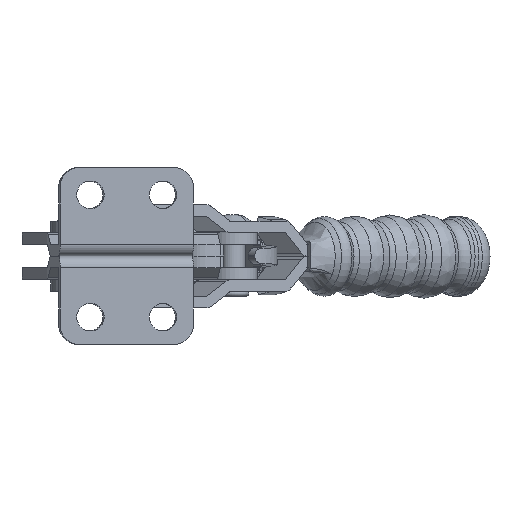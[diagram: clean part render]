
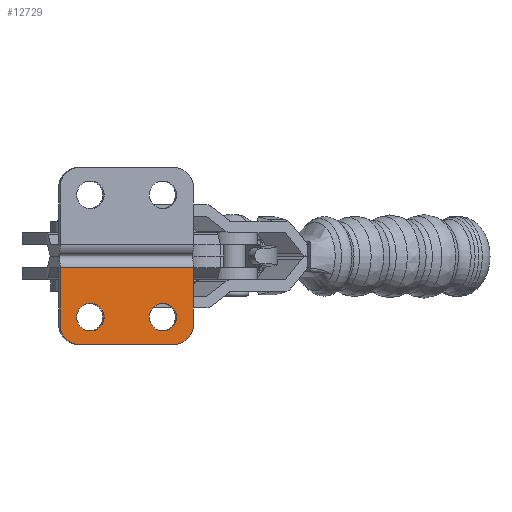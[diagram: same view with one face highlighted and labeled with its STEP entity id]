
A CAD part, front view. The second image highlights one B-rep face of the part: STEP entity #12729.
In plain terms, the highlighted planar face has unit normal (0.119, -0.993, 0) as drawn and (0, -1, 0) by its records, which use the part's own axes.
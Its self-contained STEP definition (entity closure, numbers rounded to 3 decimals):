
#872=FACE_BOUND('',#2001,.T.);
#873=FACE_BOUND('',#2002,.T.);
#958=PLANE('',#13715);
#1284=FACE_OUTER_BOUND('',#2000,.T.);
#2000=EDGE_LOOP('',(#8731,#8732,#8733,#8734,#8735,#8736));
#2001=EDGE_LOOP('',(#8737,#8738));
#2002=EDGE_LOOP('',(#8739,#8740));
#2780=LINE('',#17572,#3873);
#2814=LINE('',#17687,#3907);
#2815=LINE('',#17689,#3908);
#2816=LINE('',#17691,#3909);
#3873=VECTOR('',#14636,1000.);
#3907=VECTOR('',#14736,1000.);
#3908=VECTOR('',#14737,1000.);
#3909=VECTOR('',#14738,1000.);
#4960=CIRCLE('',#13664,3.6);
#4963=CIRCLE('',#13667,3.6);
#4964=CIRCLE('',#13669,3.6);
#4967=CIRCLE('',#13672,3.6);
#4998=CIRCLE('',#13716,5.);
#4999=CIRCLE('',#13717,5.);
#5335=VERTEX_POINT('',#17526);
#5336=VERTEX_POINT('',#17527);
#5339=VERTEX_POINT('',#17536);
#5340=VERTEX_POINT('',#17537);
#5353=VERTEX_POINT('',#17569);
#5354=VERTEX_POINT('',#17571);
#5401=VERTEX_POINT('',#17684);
#5402=VERTEX_POINT('',#17686);
#5403=VERTEX_POINT('',#17688);
#5404=VERTEX_POINT('',#17690);
#6661=EDGE_CURVE('',#5335,#5336,#4960,.T.);
#6665=EDGE_CURVE('',#5336,#5335,#4963,.T.);
#6666=EDGE_CURVE('',#5339,#5340,#4964,.T.);
#6670=EDGE_CURVE('',#5340,#5339,#4967,.T.);
#6683=EDGE_CURVE('',#5354,#5353,#2780,.T.);
#6739=EDGE_CURVE('',#5353,#5401,#4998,.T.);
#6740=EDGE_CURVE('',#5401,#5402,#2814,.T.);
#6741=EDGE_CURVE('',#5402,#5403,#2815,.T.);
#6742=EDGE_CURVE('',#5403,#5404,#2816,.T.);
#6743=EDGE_CURVE('',#5404,#5354,#4999,.T.);
#8731=ORIENTED_EDGE('',*,*,#6683,.T.);
#8732=ORIENTED_EDGE('',*,*,#6739,.T.);
#8733=ORIENTED_EDGE('',*,*,#6740,.T.);
#8734=ORIENTED_EDGE('',*,*,#6741,.T.);
#8735=ORIENTED_EDGE('',*,*,#6742,.T.);
#8736=ORIENTED_EDGE('',*,*,#6743,.T.);
#8737=ORIENTED_EDGE('',*,*,#6661,.F.);
#8738=ORIENTED_EDGE('',*,*,#6665,.F.);
#8739=ORIENTED_EDGE('',*,*,#6666,.F.);
#8740=ORIENTED_EDGE('',*,*,#6670,.F.);
#12729=ADVANCED_FACE('',(#1284,#872,#873),#958,.F.);
#13664=AXIS2_PLACEMENT_3D('',#17528,#14590,#14591);
#13667=AXIS2_PLACEMENT_3D('',#17534,#14597,#14598);
#13669=AXIS2_PLACEMENT_3D('',#17538,#14601,#14602);
#13672=AXIS2_PLACEMENT_3D('',#17544,#14608,#14609);
#13715=AXIS2_PLACEMENT_3D('',#17683,#14732,#14733);
#13716=AXIS2_PLACEMENT_3D('',#17685,#14734,#14735);
#13717=AXIS2_PLACEMENT_3D('',#17692,#14739,#14740);
#14590=DIRECTION('center_axis',(0.,-1.,0.));
#14591=DIRECTION('ref_axis',(0.,0.,-1.));
#14597=DIRECTION('center_axis',(0.,-1.,0.));
#14598=DIRECTION('ref_axis',(0.,0.,-1.));
#14601=DIRECTION('center_axis',(0.,-1.,0.));
#14602=DIRECTION('ref_axis',(0.,0.,-1.));
#14608=DIRECTION('center_axis',(0.,-1.,0.));
#14609=DIRECTION('ref_axis',(0.,0.,-1.));
#14636=DIRECTION('',(-1.,0.,0.));
#14732=DIRECTION('center_axis',(0.,1.,0.));
#14733=DIRECTION('ref_axis',(0.,0.,-1.));
#14734=DIRECTION('center_axis',(0.,-1.,0.));
#14735=DIRECTION('ref_axis',(0.,0.,1.));
#14736=DIRECTION('',(0.,0.,-1.));
#14737=DIRECTION('',(1.,0.,0.));
#14738=DIRECTION('',(0.,0.,1.));
#14739=DIRECTION('center_axis',(0.,-1.,0.));
#14740=DIRECTION('ref_axis',(0.,0.,1.));
#17526=CARTESIAN_POINT('',(36.55,0.,35.297));
#17527=CARTESIAN_POINT('',(36.55,0.,42.497));
#17528=CARTESIAN_POINT('Origin',(36.55,0.,38.897));
#17534=CARTESIAN_POINT('Origin',(36.55,0.,38.897));
#17536=CARTESIAN_POINT('',(17.55,0.,35.297));
#17537=CARTESIAN_POINT('',(17.55,0.,42.497));
#17538=CARTESIAN_POINT('Origin',(17.55,0.,38.897));
#17544=CARTESIAN_POINT('Origin',(17.55,0.,38.897));
#17569=CARTESIAN_POINT('',(14.6,0.,46.));
#17571=CARTESIAN_POINT('',(39.5,0.,46.));
#17572=CARTESIAN_POINT('',(47.3,0.,46.));
#17683=CARTESIAN_POINT('Origin',(47.3,0.,46.));
#17684=CARTESIAN_POINT('',(9.6,0.,41.));
#17685=CARTESIAN_POINT('Origin',(14.6,0.,41.));
#17686=CARTESIAN_POINT('',(9.6,0.,26.));
#17687=CARTESIAN_POINT('',(9.6,0.,46.));
#17688=CARTESIAN_POINT('',(44.5,0.,26.));
#17689=CARTESIAN_POINT('',(47.3,0.,26.));
#17690=CARTESIAN_POINT('',(44.5,0.,41.));
#17691=CARTESIAN_POINT('',(44.5,0.,46.));
#17692=CARTESIAN_POINT('Origin',(39.5,0.,41.));
